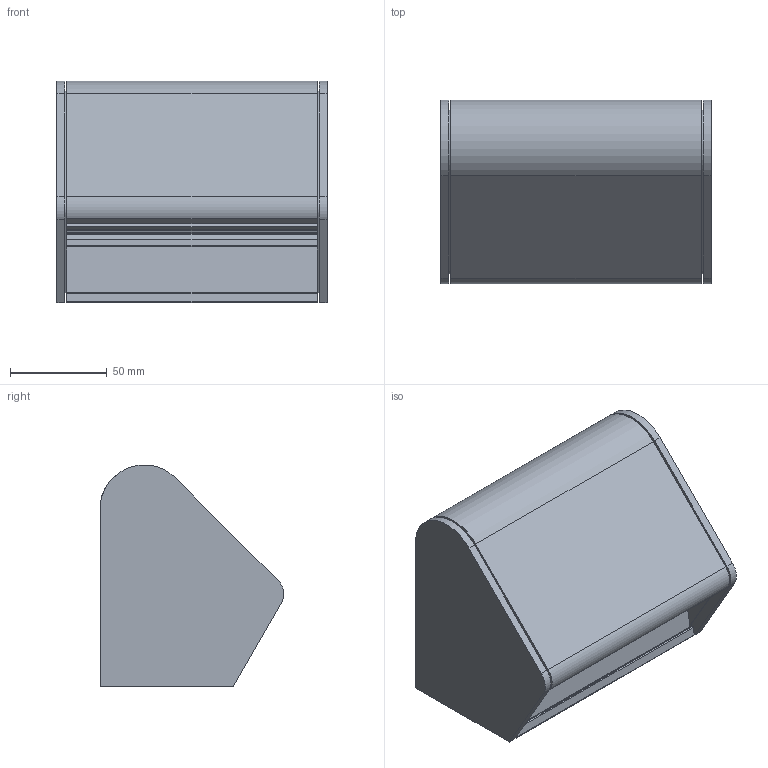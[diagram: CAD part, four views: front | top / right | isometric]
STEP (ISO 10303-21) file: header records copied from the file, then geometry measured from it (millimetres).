
FILE_DESCRIPTION (( 'STEP AP203' ), '1' );
FILE_NAME ('GILLES S - 3D WEB.STEP', '2022-12-30T10:51:02', ( '' ), ( '' ), 'SwSTEP 2.0', 'SolidWorks 2014', '' );
FILE_SCHEMA (( 'CONFIG_CONTROL_DESIGN' ));
Length unit declared in the file: millimetre
Products named in the file (1): GILLES S - 3D WEB
Bounding box: 140 x 95 x 114.95 mm (x, y, z)
Volume: 969504.3 mm3; surface area: 160751.7 mm2
Topology: 7 solids, 7 shells, 142 faces, 384 edges, 256 vertices
Faces by surface type: plane 82, cylinder 60
Entity records: 4553 total; most frequent: DIRECTION 790, CARTESIAN_POINT 783, ORIENTED_EDGE 768, EDGE_CURVE 384, VECTOR 264, LINE 264, AXIS2_PLACEMENT_3D 263, VERTEX_POINT 256
